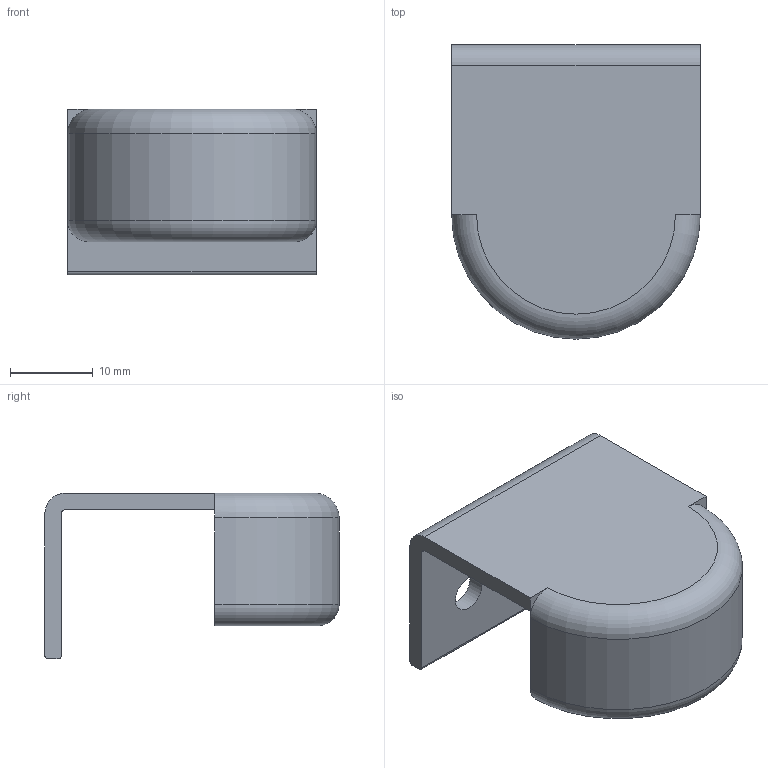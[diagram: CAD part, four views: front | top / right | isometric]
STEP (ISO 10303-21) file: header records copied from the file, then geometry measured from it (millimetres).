
FILE_DESCRIPTION(('Open CASCADE Model'),'2;1');
FILE_NAME('FL-LIP-D-30','2026-10-19T21:24:02',('Author'),('Open CASCADE' ),'Open CASCADE STEP processor 8.0','build123d','Unknown');
FILE_SCHEMA(('AUTOMOTIVE_DESIGN { 1 0 10303 214 1 1 1 1 }'));
Length unit declared in the file: millimetre
Products named in the file (2): FL-LIP-D-30; brass_FL-LIPD30-18__e
Assembly tree (1 placements, depth 2):
  FL-LIP-D-30
    brass_FL-LIPD30-18__e
Bounding box: 30 x 35.5 x 20 mm (x, y, z)
Volume: 4185.4 mm3; surface area: 4577.6 mm2
Topology: 1 solids, 1 shells, 28 faces, 76 edges, 50 vertices
Faces by surface type: plane 13, cylinder 9, torus 6
Full cylindrical faces by diameter (mm): 4.5 x2
Entity records: 1974 total; most frequent: CARTESIAN_POINT 404, DIRECTION 310, LINE 158, VECTOR 158, ORIENTED_EDGE 152, PCURVE 152, DEFINITIONAL_REPRESENTATION 152, EDGE_CURVE 76
